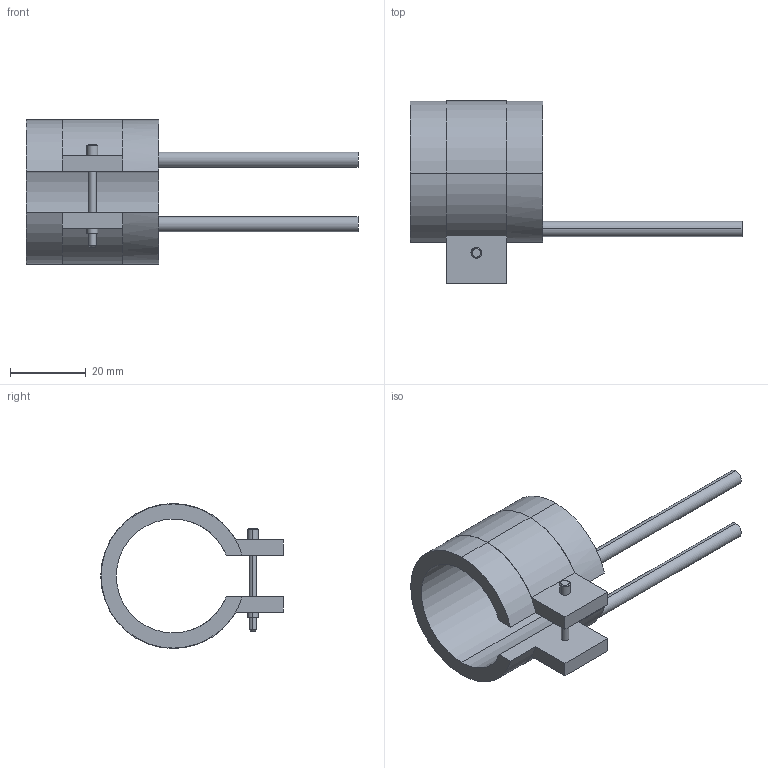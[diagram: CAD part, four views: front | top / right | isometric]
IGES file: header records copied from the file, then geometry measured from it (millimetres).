
Start section: START RECORD GO HERE.
Global section: file name: 14030035.igs; native system: DASSAULT SYSTEMES CATIA V5 R20 - www.3ds.com; preprocessor: CATIA Version 5 Release 20 ; author: Utente; organization: NB04-ASUS; date: 20210331.134020; units: millimetre
Bounding box: 87.5 x 48.1 x 38.2 mm (x, y, z)
Surface area: 10142.6 mm2 (no closed solid volume)
Topology: 0 solids, 0 shells, 45 faces, 232 edges, 232 vertices
Faces by surface type: revolution 28, plane 17
